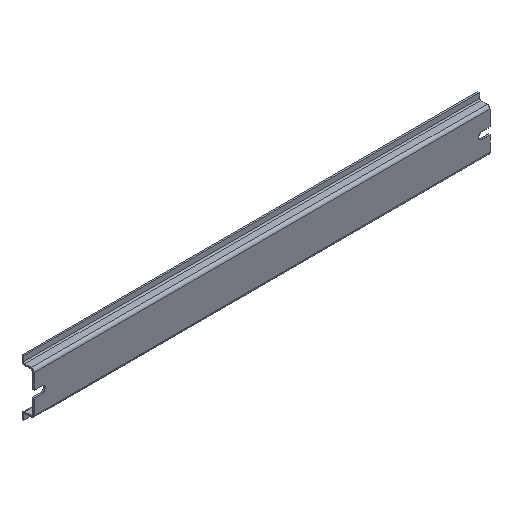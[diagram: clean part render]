
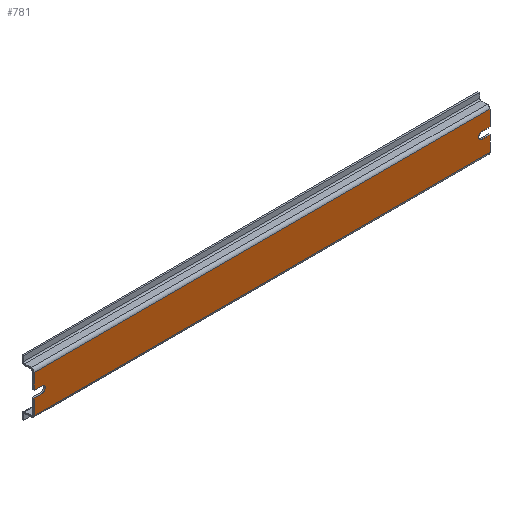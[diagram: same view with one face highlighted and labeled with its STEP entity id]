
A CAD part, isometric view. The second image highlights one B-rep face of the part: STEP entity #781.
In plain terms, the highlighted planar face has unit normal (0, -1, 0).
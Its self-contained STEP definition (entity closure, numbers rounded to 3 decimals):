
#254=DIRECTION('',(0.,0.,-1.));
#255=VECTOR('',#254,9.6);
#256=CARTESIAN_POINT('',(-142.5,0.,11.7));
#257=LINE('',#256,#255);
#262=DIRECTION('',(0.,0.,-1.));
#263=VECTOR('',#262,9.6);
#264=CARTESIAN_POINT('',(-142.5,0.,-2.1));
#265=LINE('',#264,#263);
#310=DIRECTION('',(-1.,0.,0.));
#311=VECTOR('',#310,5.);
#312=CARTESIAN_POINT('',(142.5,0.,-2.1));
#313=LINE('',#312,#311);
#314=DIRECTION('',(1.,0.,0.));
#315=VECTOR('',#314,5.);
#316=CARTESIAN_POINT('',(-142.5,0.,-2.1));
#317=LINE('',#316,#315);
#318=CARTESIAN_POINT('',(-137.5,0.,0.));
#319=DIRECTION('',(0.,1.,0.));
#320=DIRECTION('',(0.,0.,1.));
#321=AXIS2_PLACEMENT_3D('',#318,#319,#320);
#323=DIRECTION('',(1.,0.,0.));
#324=VECTOR('',#323,5.);
#325=CARTESIAN_POINT('',(-142.5,0.,2.1));
#326=LINE('',#325,#324);
#327=DIRECTION('',(1.,0.,0.));
#328=VECTOR('',#327,285.);
#329=CARTESIAN_POINT('',(-142.5,0.,11.7));
#330=LINE('',#329,#328);
#331=DIRECTION('',(-1.,0.,0.));
#332=VECTOR('',#331,5.);
#333=CARTESIAN_POINT('',(142.5,0.,2.1));
#334=LINE('',#333,#332);
#335=CARTESIAN_POINT('',(137.5,0.,0.));
#336=DIRECTION('',(0.,1.,0.));
#337=DIRECTION('',(0.,0.,-1.));
#338=AXIS2_PLACEMENT_3D('',#335,#336,#337);
#388=DIRECTION('',(0.,0.,-1.));
#389=VECTOR('',#388,9.6);
#390=CARTESIAN_POINT('',(142.5,0.,-2.1));
#391=LINE('',#390,#389);
#396=DIRECTION('',(0.,0.,-1.));
#397=VECTOR('',#396,9.6);
#398=CARTESIAN_POINT('',(142.5,0.,11.7));
#399=LINE('',#398,#397);
#558=DIRECTION('',(1.,0.,0.));
#559=VECTOR('',#558,285.);
#560=CARTESIAN_POINT('',(-142.5,0.,-11.7));
#561=LINE('',#560,#559);
#570=CARTESIAN_POINT('',(-142.5,0.,11.7));
#571=VERTEX_POINT('',#570);
#572=CARTESIAN_POINT('',(-142.5,0.,-11.7));
#574=VERTEX_POINT('',#572);
#610=CARTESIAN_POINT('',(142.5,0.,11.7));
#611=VERTEX_POINT('',#610);
#612=CARTESIAN_POINT('',(142.5,0.,-11.7));
#614=VERTEX_POINT('',#612);
#642=CARTESIAN_POINT('',(-142.5,0.,2.1));
#644=VERTEX_POINT('',#642);
#646=CARTESIAN_POINT('',(-142.5,0.,-2.1));
#648=VERTEX_POINT('',#646);
#650=CARTESIAN_POINT('',(142.5,0.,-2.1));
#652=VERTEX_POINT('',#650);
#654=CARTESIAN_POINT('',(142.5,0.,2.1));
#656=VERTEX_POINT('',#654);
#658=CARTESIAN_POINT('',(137.5,0.,-2.1));
#659=VERTEX_POINT('',#658);
#660=CARTESIAN_POINT('',(137.5,0.,2.1));
#661=VERTEX_POINT('',#660);
#662=CARTESIAN_POINT('',(-137.5,0.,2.1));
#663=VERTEX_POINT('',#662);
#664=CARTESIAN_POINT('',(-137.5,0.,-2.1));
#665=VERTEX_POINT('',#664);
#753=CARTESIAN_POINT('',(-142.5,0.,11.7));
#754=DIRECTION('',(0.,-1.,0.));
#755=DIRECTION('',(0.,0.,-1.));
#756=AXIS2_PLACEMENT_3D('',#753,#754,#755);
#757=PLANE('',#756);
#759=ORIENTED_EDGE('',*,*,#758,.F.);
#761=ORIENTED_EDGE('',*,*,#760,.T.);
#763=ORIENTED_EDGE('',*,*,#762,.F.);
#764=ORIENTED_EDGE('',*,*,#713,.F.);
#766=ORIENTED_EDGE('',*,*,#765,.T.);
#768=ORIENTED_EDGE('',*,*,#767,.F.);
#769=ORIENTED_EDGE('',*,*,#744,.F.);
#770=ORIENTED_EDGE('',*,*,#701,.F.);
#772=ORIENTED_EDGE('',*,*,#771,.T.);
#774=ORIENTED_EDGE('',*,*,#773,.T.);
#776=ORIENTED_EDGE('',*,*,#775,.T.);
#778=ORIENTED_EDGE('',*,*,#777,.F.);
#779=EDGE_LOOP('',(#759,#761,#763,#764,#766,#768,#769,#770,#772,#774,#776,
#778));
#780=FACE_OUTER_BOUND('',#779,.F.);
#781=ADVANCED_FACE('',(#780),#757,.T.);
#322=CIRCLE('',#321,2.1);
#339=CIRCLE('',#338,2.1);
#701=EDGE_CURVE('',#571,#644,#257,.T.);
#713=EDGE_CURVE('',#648,#574,#265,.T.);
#744=EDGE_CURVE('',#644,#663,#326,.T.);
#758=EDGE_CURVE('',#652,#659,#313,.T.);
#760=EDGE_CURVE('',#652,#614,#391,.T.);
#762=EDGE_CURVE('',#574,#614,#561,.T.);
#765=EDGE_CURVE('',#648,#665,#317,.T.);
#767=EDGE_CURVE('',#663,#665,#322,.T.);
#771=EDGE_CURVE('',#571,#611,#330,.T.);
#773=EDGE_CURVE('',#611,#656,#399,.T.);
#775=EDGE_CURVE('',#656,#661,#334,.T.);
#777=EDGE_CURVE('',#659,#661,#339,.T.);
